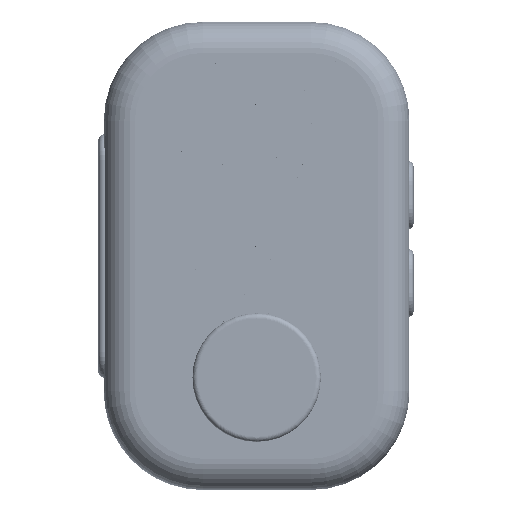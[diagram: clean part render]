
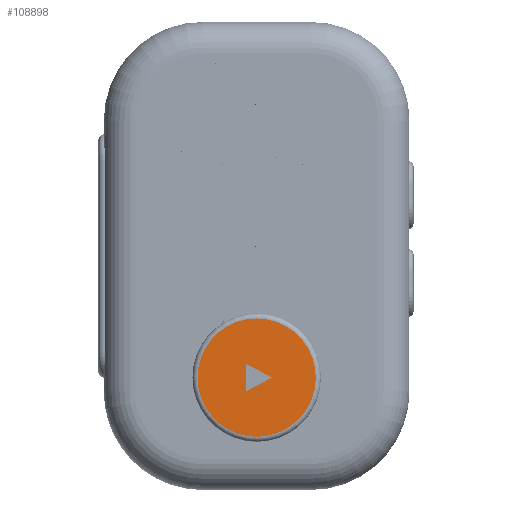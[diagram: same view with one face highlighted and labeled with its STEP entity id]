
A CAD part, top view. The second image highlights one B-rep face of the part: STEP entity #108898.
In plain terms, the highlighted planar face has unit normal (0, 0, 1).
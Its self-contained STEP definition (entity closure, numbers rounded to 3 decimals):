
#108548 = EDGE_CURVE('',#108549,#108551,#108553,.T.);
#108549 = VERTEX_POINT('',#108550);
#108550 = CARTESIAN_POINT('',(4.5,-36.,14.4));
#108551 = VERTEX_POINT('',#108552);
#108552 = CARTESIAN_POINT('',(-3.2,-40.1,14.4));
#108553 = SURFACE_CURVE('',#108554,(#108558,#108570),.PCURVE_S1.);
#108554 = LINE('',#108555,#108556);
#108555 = CARTESIAN_POINT('',(2.747,-36.933,14.4));
#108556 = VECTOR('',#108557,1.);
#108557 = DIRECTION('',(-0.883,-0.47,0.));
#108558 = PCURVE('',#108559,#108564);
#108559 = PLANE('',#108560);
#108560 = AXIS2_PLACEMENT_3D('',#108561,#108562,#108563);
#108561 = CARTESIAN_POINT('',(4.5,-36.,14.5));
#108562 = DIRECTION('',(0.47,-0.883,0.));
#108563 = DIRECTION('',(-0.883,-0.47,0.));
#108564 = DEFINITIONAL_REPRESENTATION('',(#108565),#108569);
#108565 = LINE('',#108566,#108567);
#108566 = CARTESIAN_POINT('',(1.986,0.1));
#108567 = VECTOR('',#108568,1.);
#108568 = DIRECTION('',(1.,0.));
#108569 = ( GEOMETRIC_REPRESENTATION_CONTEXT(2) 
PARAMETRIC_REPRESENTATION_CONTEXT() REPRESENTATION_CONTEXT('2D SPACE',''
  ) );
#108570 = PCURVE('',#108571,#108576);
#108571 = PLANE('',#108572);
#108572 = AXIS2_PLACEMENT_3D('',#108573,#108574,#108575);
#108573 = CARTESIAN_POINT('',(0.,-36.,14.4));
#108574 = DIRECTION('',(0.,0.,1.));
#108575 = DIRECTION('',(1.,0.,-0.));
#108576 = DEFINITIONAL_REPRESENTATION('',(#108577),#108581);
#108577 = LINE('',#108578,#108579);
#108578 = CARTESIAN_POINT('',(2.747,-0.933));
#108579 = VECTOR('',#108580,1.);
#108580 = DIRECTION('',(-0.883,-0.47));
#108581 = ( GEOMETRIC_REPRESENTATION_CONTEXT(2) 
PARAMETRIC_REPRESENTATION_CONTEXT() REPRESENTATION_CONTEXT('2D SPACE',''
  ) );
#108599 = PLANE('',#108600);
#108600 = AXIS2_PLACEMENT_3D('',#108601,#108602,#108603);
#108601 = CARTESIAN_POINT('',(-3.2,-31.9,14.5));
#108602 = DIRECTION('',(0.47,0.883,0.));
#108603 = DIRECTION('',(0.883,-0.47,0.));
#108653 = PLANE('',#108654);
#108654 = AXIS2_PLACEMENT_3D('',#108655,#108656,#108657);
#108655 = CARTESIAN_POINT('',(-3.2,-40.1,14.5));
#108656 = DIRECTION('',(-1.,0.,0.));
#108657 = DIRECTION('',(0.,1.,0.));
#108668 = EDGE_CURVE('',#108551,#108669,#108671,.T.);
#108669 = VERTEX_POINT('',#108670);
#108670 = CARTESIAN_POINT('',(-3.2,-31.9,14.4));
#108671 = SURFACE_CURVE('',#108672,(#108676,#108683),.PCURVE_S1.);
#108672 = LINE('',#108673,#108674);
#108673 = CARTESIAN_POINT('',(-3.2,-38.05,14.4));
#108674 = VECTOR('',#108675,1.);
#108675 = DIRECTION('',(0.,1.,0.));
#108676 = PCURVE('',#108653,#108677);
#108677 = DEFINITIONAL_REPRESENTATION('',(#108678),#108682);
#108678 = LINE('',#108679,#108680);
#108679 = CARTESIAN_POINT('',(2.05,0.1));
#108680 = VECTOR('',#108681,1.);
#108681 = DIRECTION('',(1.,0.));
#108682 = ( GEOMETRIC_REPRESENTATION_CONTEXT(2) 
PARAMETRIC_REPRESENTATION_CONTEXT() REPRESENTATION_CONTEXT('2D SPACE',''
  ) );
#108683 = PCURVE('',#108571,#108684);
#108684 = DEFINITIONAL_REPRESENTATION('',(#108685),#108689);
#108685 = LINE('',#108686,#108687);
#108686 = CARTESIAN_POINT('',(-3.2,-2.05));
#108687 = VECTOR('',#108688,1.);
#108688 = DIRECTION('',(0.,1.));
#108689 = ( GEOMETRIC_REPRESENTATION_CONTEXT(2) 
PARAMETRIC_REPRESENTATION_CONTEXT() REPRESENTATION_CONTEXT('2D SPACE',''
  ) );
#108739 = EDGE_CURVE('',#108669,#108549,#108740,.T.);
#108740 = SURFACE_CURVE('',#108741,(#108745,#108752),.PCURVE_S1.);
#108741 = LINE('',#108742,#108743);
#108742 = CARTESIAN_POINT('',(-1.103,-33.017,14.4));
#108743 = VECTOR('',#108744,1.);
#108744 = DIRECTION('',(0.883,-0.47,0.));
#108745 = PCURVE('',#108599,#108746);
#108746 = DEFINITIONAL_REPRESENTATION('',(#108747),#108751);
#108747 = LINE('',#108748,#108749);
#108748 = CARTESIAN_POINT('',(2.376,0.1));
#108749 = VECTOR('',#108750,1.);
#108750 = DIRECTION('',(1.,0.));
#108751 = ( GEOMETRIC_REPRESENTATION_CONTEXT(2) 
PARAMETRIC_REPRESENTATION_CONTEXT() REPRESENTATION_CONTEXT('2D SPACE',''
  ) );
#108752 = PCURVE('',#108571,#108753);
#108753 = DEFINITIONAL_REPRESENTATION('',(#108754),#108758);
#108754 = LINE('',#108755,#108756);
#108755 = CARTESIAN_POINT('',(-1.103,2.983));
#108756 = VECTOR('',#108757,1.);
#108757 = DIRECTION('',(0.883,-0.47));
#108758 = ( GEOMETRIC_REPRESENTATION_CONTEXT(2) 
PARAMETRIC_REPRESENTATION_CONTEXT() REPRESENTATION_CONTEXT('2D SPACE',''
  ) );
#108792 = EDGE_CURVE('',#108793,#108793,#108795,.T.);
#108793 = VERTEX_POINT('',#108794);
#108794 = CARTESIAN_POINT('',(-17.5,-36.,14.4));
#108795 = SURFACE_CURVE('',#108796,(#108801,#108813),.PCURVE_S1.);
#108796 = CIRCLE('',#108797,17.5);
#108797 = AXIS2_PLACEMENT_3D('',#108798,#108799,#108800);
#108798 = CARTESIAN_POINT('',(0.,-36.,14.4));
#108799 = DIRECTION('',(0.,0.,-1.));
#108800 = DIRECTION('',(1.,0.,0.));
#108801 = PCURVE('',#108802,#108807);
#108802 = TOROIDAL_SURFACE('',#108803,17.5,1.5);
#108803 = AXIS2_PLACEMENT_3D('',#108804,#108805,#108806);
#108804 = CARTESIAN_POINT('',(0.,-36.,12.9));
#108805 = DIRECTION('',(0.,0.,1.));
#108806 = DIRECTION('',(1.,0.,-0.));
#108807 = DEFINITIONAL_REPRESENTATION('',(#108808),#108812);
#108808 = LINE('',#108809,#108810);
#108809 = CARTESIAN_POINT('',(6.283,1.571));
#108810 = VECTOR('',#108811,1.);
#108811 = DIRECTION('',(-1.,0.));
#108812 = ( GEOMETRIC_REPRESENTATION_CONTEXT(2) 
PARAMETRIC_REPRESENTATION_CONTEXT() REPRESENTATION_CONTEXT('2D SPACE',''
  ) );
#108813 = PCURVE('',#108571,#108814);
#108814 = DEFINITIONAL_REPRESENTATION('',(#108815),#108823);
#108815 = ( BOUNDED_CURVE() B_SPLINE_CURVE(2,(#108816,#108817,#108818,
    #108819,#108820,#108821,#108822),.UNSPECIFIED.,.T.,.F.) 
B_SPLINE_CURVE_WITH_KNOTS((1,2,2,2,2,1),(-2.094,0.,
    2.094,4.189,6.283,8.378),
.UNSPECIFIED.) CURVE() GEOMETRIC_REPRESENTATION_ITEM() 
RATIONAL_B_SPLINE_CURVE((1.,0.5,1.,0.5,1.,0.5,1.)) REPRESENTATION_ITEM(
  '') );
#108816 = CARTESIAN_POINT('',(17.5,0.));
#108817 = CARTESIAN_POINT('',(17.5,-30.311));
#108818 = CARTESIAN_POINT('',(-8.75,-15.155));
#108819 = CARTESIAN_POINT('',(-35.,0.));
#108820 = CARTESIAN_POINT('',(-8.75,15.155));
#108821 = CARTESIAN_POINT('',(17.5,30.311));
#108822 = CARTESIAN_POINT('',(17.5,0.));
#108823 = ( GEOMETRIC_REPRESENTATION_CONTEXT(2) 
PARAMETRIC_REPRESENTATION_CONTEXT() REPRESENTATION_CONTEXT('2D SPACE',''
  ) );
#108898 = ADVANCED_FACE('',(#108899,#108902),#108571,.T.);
#108899 = FACE_BOUND('',#108900,.T.);
#108900 = EDGE_LOOP('',(#108901));
#108901 = ORIENTED_EDGE('',*,*,#108792,.F.);
#108902 = FACE_BOUND('',#108903,.T.);
#108903 = EDGE_LOOP('',(#108904,#108905,#108906));
#108904 = ORIENTED_EDGE('',*,*,#108668,.T.);
#108905 = ORIENTED_EDGE('',*,*,#108739,.T.);
#108906 = ORIENTED_EDGE('',*,*,#108548,.T.);
